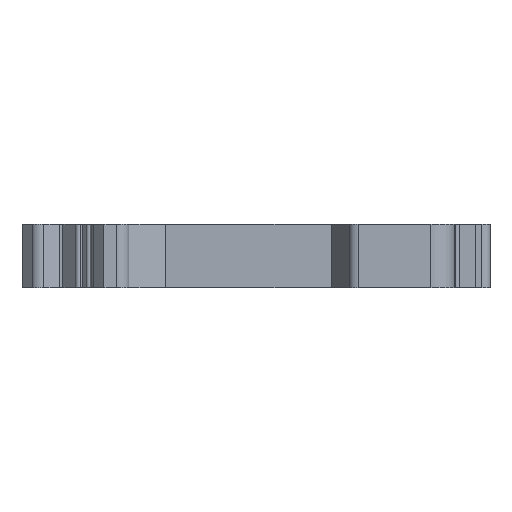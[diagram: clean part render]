
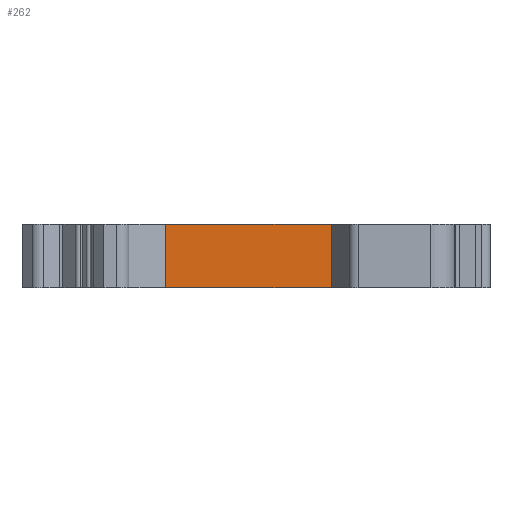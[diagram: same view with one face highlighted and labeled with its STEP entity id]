
A CAD part, left-side view. The second image highlights one B-rep face of the part: STEP entity #262.
In plain terms, the highlighted planar face has unit normal (-1, 0, 0).
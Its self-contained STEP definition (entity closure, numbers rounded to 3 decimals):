
#262=ADVANCED_FACE('',(#487),#361,.F.);
#361=PLANE('',#2898);
#487=FACE_OUTER_BOUND('',#621,.T.);
#621=EDGE_LOOP('',(#1052,#1053,#1054,#1055));
#1052=ORIENTED_EDGE('',*,*,#2010,.T.);
#1053=ORIENTED_EDGE('',*,*,#2011,.F.);
#1054=ORIENTED_EDGE('',*,*,#2012,.F.);
#1055=ORIENTED_EDGE('',*,*,#2008,.T.);
#1646=VERTEX_POINT('',#4294);
#1647=VERTEX_POINT('',#4296);
#1648=VERTEX_POINT('',#4300);
#1649=VERTEX_POINT('',#4302);
#2008=EDGE_CURVE('',#1647,#1646,#2334,.T.);
#2010=EDGE_CURVE('',#1646,#1648,#2336,.T.);
#2011=EDGE_CURVE('',#1649,#1648,#2337,.T.);
#2012=EDGE_CURVE('',#1647,#1649,#2338,.T.);
#2334=LINE('',#4295,#2644);
#2336=LINE('',#4299,#2646);
#2337=LINE('',#4301,#2647);
#2338=LINE('',#4303,#2648);
#2644=VECTOR('',#3513,1.);
#2646=VECTOR('',#3517,1.);
#2647=VECTOR('',#3518,1.);
#2648=VECTOR('',#3519,1.);
#2898=AXIS2_PLACEMENT_3D('',#4304,#3520,#3521);
#3513=DIRECTION('',(0.,0.,1.));
#3517=DIRECTION('',(0.,1.,0.));
#3518=DIRECTION('',(0.,0.,1.));
#3519=DIRECTION('',(0.,1.,0.));
#3520=DIRECTION('',(1.,0.,0.));
#3521=DIRECTION('',(0.,0.,-1.));
#4294=CARTESIAN_POINT('',(2281.348,-1588.494,0.));
#4295=CARTESIAN_POINT('',(2281.348,-1588.494,-6.2));
#4296=CARTESIAN_POINT('',(2281.348,-1588.494,-6.2));
#4299=CARTESIAN_POINT('',(2281.348,-1588.494,0.));
#4300=CARTESIAN_POINT('',(2281.348,-1572.194,0.));
#4301=CARTESIAN_POINT('',(2281.348,-1572.194,-6.2));
#4302=CARTESIAN_POINT('',(2281.348,-1572.194,-6.2));
#4303=CARTESIAN_POINT('',(2281.348,-1588.494,-6.2));
#4304=CARTESIAN_POINT('',(2281.348,-1588.494,-6.2));
